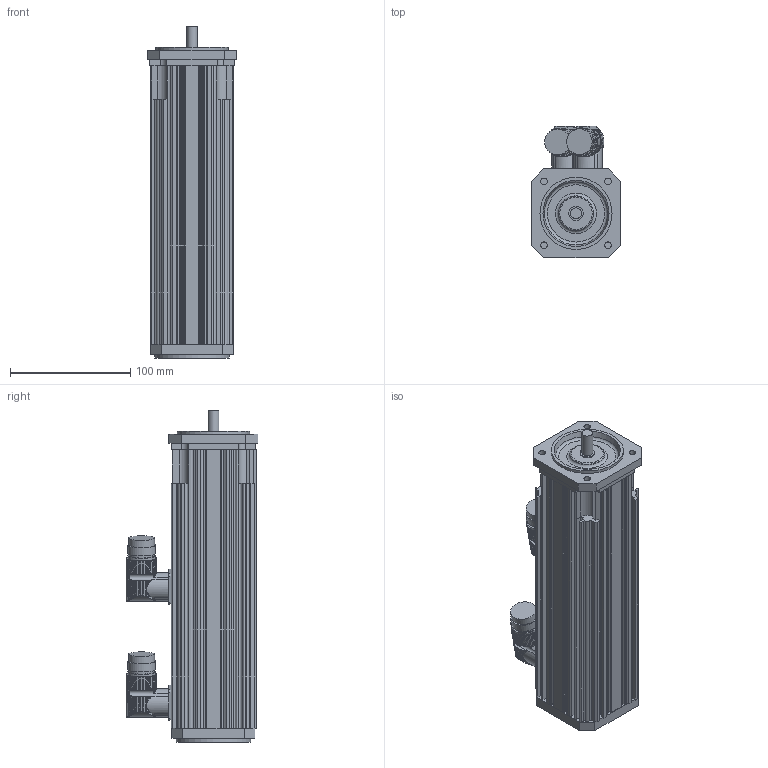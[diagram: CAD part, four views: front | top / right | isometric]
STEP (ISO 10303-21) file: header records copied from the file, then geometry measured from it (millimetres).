
FILE_DESCRIPTION(/* description */ (''),/* implementation_level */ '2;1');
FILE_NAME(/* name */ 'KSA246_MC_Ix',/* time_stamp */ '2009-02-26T13:02:56+01:00',/* author */ (''),/* organization */ (''),/* preprocessor_version */ 'ST-DEVELOPER v8',/* originating_system */ 'UNIGRAPHICS SOLUTIONS - UNIGRAPHICS 18.0',/* authorisation */ '');
FILE_SCHEMA (('AUTOMOTIVE_DESIGN { 1 2 10303 214 0 1 1 1 }'));
Length unit declared in the file: millimetre
Products named in the file (4): Lagersch2AS_0; Winkelflanschdose_0; Lagersch2BS_0; KSA244_MC_Ix_0
Assembly tree (4 placements, depth 2):
  KSA244_MC_Ix_0
    Lagersch2BS_0
    Winkelflanschdose_0  x2
    Lagersch2AS_0
Bounding box: 74 x 109.69 x 276 mm (x, y, z)
Volume: 467071.9 mm3; surface area: 182870.1 mm2
Topology: 5 solids, 5 shells, 640 faces, 1787 edges, 1166 vertices
Faces by surface type: cylinder 402, plane 185, torus 16, bspline 16, sphere 16, cone 5
Full cylindrical faces by diameter (mm): 5.5 x4, 9 x1, 12 x1, 16 x2, 20 x2, 21 x2, 21.5 x2, 23 x4, 60 x2, 61 x2, 62 x1
Entity records: 16144 total; most frequent: CARTESIAN_POINT 3740, ORIENTED_EDGE 2534, DIRECTION 2486, EDGE_CURVE 1267, AXIS2_PLACEMENT_3D 938, VERTEX_POINT 844, LINE 610, VECTOR 610
